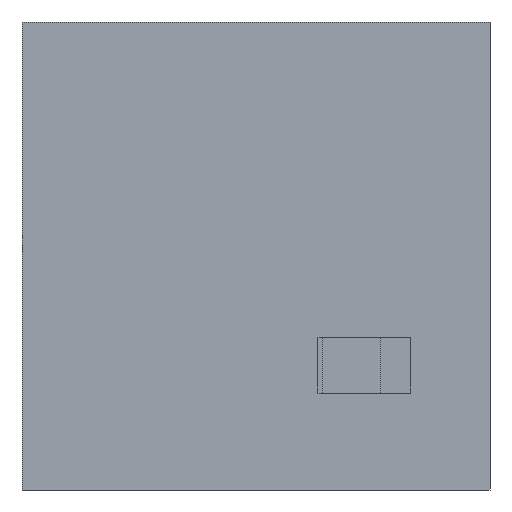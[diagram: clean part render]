
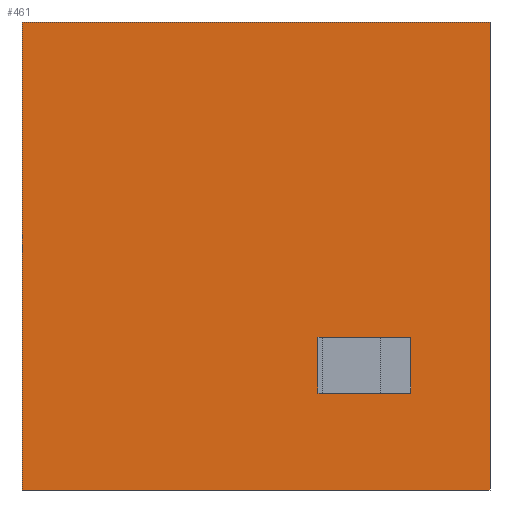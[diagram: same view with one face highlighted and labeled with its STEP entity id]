
A CAD part, left-side view. The second image highlights one B-rep face of the part: STEP entity #461.
In plain terms, the highlighted planar face has unit normal (-1, 0, 0).
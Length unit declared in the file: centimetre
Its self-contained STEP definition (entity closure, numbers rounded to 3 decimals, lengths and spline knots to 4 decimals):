
#9 = CARTESIAN_POINT ( 'NONE',  ( 0., 1000., 1000. ) ) ;
#11 = EDGE_CURVE ( 'NONE', #559, #73, #309, .T. ) ;
#33 = ORIENTED_EDGE ( 'NONE', *, *, #655, .F. ) ;
#34 = VECTOR ( 'NONE', #62, 100. ) ;
#39 = FACE_BOUND ( 'NONE', #432, .T. ) ;
#57 = CARTESIAN_POINT ( 'NONE',  ( 0., 0., 1000. ) ) ;
#60 = CARTESIAN_POINT ( 'NONE',  ( 0., 169.8266, 207.1309 ) ) ;
#62 = DIRECTION ( 'NONE',  ( 0., 0., -1. ) ) ;
#66 = CARTESIAN_POINT ( 'NONE',  ( 0., 1000., 1000. ) ) ;
#73 = VERTEX_POINT ( 'NONE', #114 ) ;
#86 = VERTEX_POINT ( 'NONE', #244 ) ;
#90 = ORIENTED_EDGE ( 'NONE', *, *, #579, .F. ) ;
#99 = EDGE_CURVE ( 'NONE', #279, #559, #645, .T. ) ;
#103 = VECTOR ( 'NONE', #410, 100. ) ;
#114 = CARTESIAN_POINT ( 'NONE',  ( 0., 169.8266, 326.0057 ) ) ;
#136 = ORIENTED_EDGE ( 'NONE', *, *, #99, .F. ) ;
#150 = AXIS2_PLACEMENT_3D ( 'NONE', #213, #459, #221 ) ;
#160 = VECTOR ( 'NONE', #657, 100. ) ;
#169 = CARTESIAN_POINT ( 'NONE',  ( 0., 169.8266, 207.1309 ) ) ;
#193 = VERTEX_POINT ( 'NONE', #693 ) ;
#201 = CARTESIAN_POINT ( 'NONE',  ( 0., 1000., 0. ) ) ;
#213 = CARTESIAN_POINT ( 'NONE',  ( 0., 1000., 1000. ) ) ;
#221 = DIRECTION ( 'NONE',  ( 0., 0., -1. ) ) ;
#244 = CARTESIAN_POINT ( 'NONE',  ( 0., 367.5334, 326.0057 ) ) ;
#254 = VECTOR ( 'NONE', #328, 100. ) ;
#279 = VERTEX_POINT ( 'NONE', #413 ) ;
#290 = ORIENTED_EDGE ( 'NONE', *, *, #553, .F. ) ;
#291 = LINE ( 'NONE', #57, #443 ) ;
#300 = CARTESIAN_POINT ( 'NONE',  ( 0., 169.8266, 326.0057 ) ) ;
#306 = VECTOR ( 'NONE', #446, 100. ) ;
#309 = LINE ( 'NONE', #429, #160 ) ;
#311 = ORIENTED_EDGE ( 'NONE', *, *, #648, .T. ) ;
#318 = VERTEX_POINT ( 'NONE', #460 ) ;
#328 = DIRECTION ( 'NONE',  ( 0., 0., -1. ) ) ;
#332 = VECTOR ( 'NONE', #436, 100. ) ;
#335 = EDGE_CURVE ( 'NONE', #395, #318, #478, .T. ) ;
#356 = LINE ( 'NONE', #300, #571 ) ;
#392 = LINE ( 'NONE', #569, #254 ) ;
#395 = VERTEX_POINT ( 'NONE', #201 ) ;
#408 = LINE ( 'NONE', #503, #306 ) ;
#410 = DIRECTION ( 'NONE',  ( 0., -1., 0. ) ) ;
#411 = DIRECTION ( 'NONE',  ( 0., 1., 0. ) ) ;
#413 = CARTESIAN_POINT ( 'NONE',  ( 0., 367.5334, 207.1309 ) ) ;
#418 = CARTESIAN_POINT ( 'NONE',  ( 0., 1000., 0. ) ) ;
#429 = CARTESIAN_POINT ( 'NONE',  ( 0., 169.8266, 207.1309 ) ) ;
#432 = EDGE_LOOP ( 'NONE', ( #552, #136, #290, #33 ) ) ;
#436 = DIRECTION ( 'NONE',  ( 0., -1., 0. ) ) ;
#443 = VECTOR ( 'NONE', #526, 100. ) ;
#446 = DIRECTION ( 'NONE',  ( 0., -1., 0. ) ) ;
#447 = VERTEX_POINT ( 'NONE', #9 ) ;
#459 = DIRECTION ( 'NONE',  ( 1., 0., 0. ) ) ;
#460 = CARTESIAN_POINT ( 'NONE',  ( 0., 0., 0. ) ) ;
#461 = ADVANCED_FACE ( 'NONE', ( #39, #740 ), #675, .F. ) ;
#478 = LINE ( 'NONE', #418, #332 ) ;
#503 = CARTESIAN_POINT ( 'NONE',  ( 0., 1000., 1000. ) ) ;
#526 = DIRECTION ( 'NONE',  ( 0., 0., -1. ) ) ;
#538 = LINE ( 'NONE', #66, #34 ) ;
#552 = ORIENTED_EDGE ( 'NONE', *, *, #11, .F. ) ;
#553 = EDGE_CURVE ( 'NONE', #86, #279, #392, .T. ) ;
#559 = VERTEX_POINT ( 'NONE', #169 ) ;
#569 = CARTESIAN_POINT ( 'NONE',  ( 0., 367.5334, 207.1309 ) ) ;
#571 = VECTOR ( 'NONE', #411, 100. ) ;
#577 = ORIENTED_EDGE ( 'NONE', *, *, #699, .F. ) ;
#579 = EDGE_CURVE ( 'NONE', #447, #193, #408, .T. ) ;
#638 = ORIENTED_EDGE ( 'NONE', *, *, #335, .T. ) ;
#645 = LINE ( 'NONE', #60, #103 ) ;
#648 = EDGE_CURVE ( 'NONE', #447, #395, #538, .T. ) ;
#655 = EDGE_CURVE ( 'NONE', #73, #86, #356, .T. ) ;
#657 = DIRECTION ( 'NONE',  ( 0., 0., 1. ) ) ;
#675 = PLANE ( 'NONE',  #150 ) ;
#693 = CARTESIAN_POINT ( 'NONE',  ( 0., 0., 1000. ) ) ;
#699 = EDGE_CURVE ( 'NONE', #193, #318, #291, .T. ) ;
#723 = EDGE_LOOP ( 'NONE', ( #638, #577, #90, #311 ) ) ;
#740 = FACE_OUTER_BOUND ( 'NONE', #723, .T. ) ;
